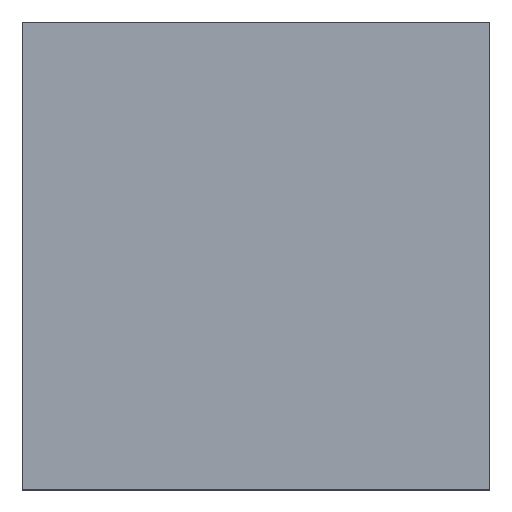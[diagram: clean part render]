
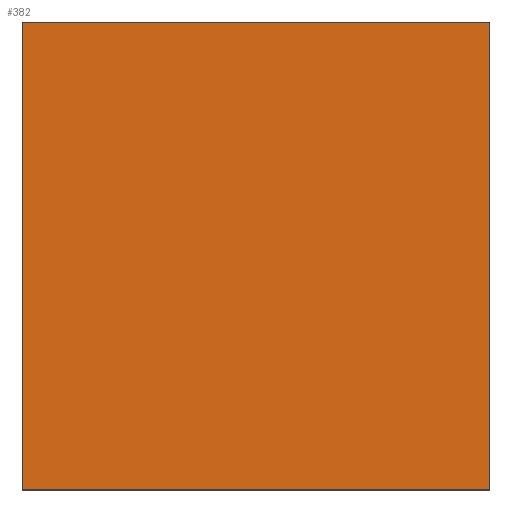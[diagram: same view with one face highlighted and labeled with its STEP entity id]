
A CAD part, top view. The second image highlights one B-rep face of the part: STEP entity #382.
In plain terms, the highlighted planar face has unit normal (0, 0, 1).
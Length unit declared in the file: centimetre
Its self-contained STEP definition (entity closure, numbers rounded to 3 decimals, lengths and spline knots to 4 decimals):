
#7 = ORIENTED_EDGE ( 'NONE', *, *, #65, .T. ) ;
#19 = DIRECTION ( 'NONE',  ( 1., 0., 0. ) ) ;
#27 = AXIS2_PLACEMENT_3D ( 'NONE', #230, #345, #19 ) ;
#38 = LINE ( 'NONE', #271, #120 ) ;
#65 = EDGE_CURVE ( 'NONE', #178, #325, #135, .T. ) ;
#78 = VECTOR ( 'NONE', #321, 100. ) ;
#120 = VECTOR ( 'NONE', #406, 100. ) ;
#135 = LINE ( 'NONE', #324, #78 ) ;
#147 = CARTESIAN_POINT ( 'NONE',  ( 0., 1000., 1000. ) ) ;
#149 = DIRECTION ( 'NONE',  ( 0., 1., 0. ) ) ;
#150 = DIRECTION ( 'NONE',  ( -1., 0., 0. ) ) ;
#168 = EDGE_CURVE ( 'NONE', #354, #178, #304, .T. ) ;
#178 = VERTEX_POINT ( 'NONE', #436 ) ;
#185 = CARTESIAN_POINT ( 'NONE',  ( 1000., 1000., 1000. ) ) ;
#190 = PLANE ( 'NONE',  #27 ) ;
#199 = FACE_OUTER_BOUND ( 'NONE', #219, .T. ) ;
#213 = ORIENTED_EDGE ( 'NONE', *, *, #341, .T. ) ;
#219 = EDGE_LOOP ( 'NONE', ( #7, #213, #356, #431 ) ) ;
#220 = VECTOR ( 'NONE', #150, 100. ) ;
#230 = CARTESIAN_POINT ( 'NONE',  ( 0., 0., 1000. ) ) ;
#263 = CARTESIAN_POINT ( 'NONE',  ( 0., 0., 1000. ) ) ;
#271 = CARTESIAN_POINT ( 'NONE',  ( 0., 0., 1000. ) ) ;
#304 = LINE ( 'NONE', #147, #220 ) ;
#307 = LINE ( 'NONE', #185, #320 ) ;
#320 = VECTOR ( 'NONE', #149, 100. ) ;
#321 = DIRECTION ( 'NONE',  ( 0., -1., 0. ) ) ;
#324 = CARTESIAN_POINT ( 'NONE',  ( 0., 1000., 1000. ) ) ;
#325 = VERTEX_POINT ( 'NONE', #263 ) ;
#341 = EDGE_CURVE ( 'NONE', #325, #387, #38, .T. ) ;
#345 = DIRECTION ( 'NONE',  ( 0., 0., 1. ) ) ;
#354 = VERTEX_POINT ( 'NONE', #412 ) ;
#356 = ORIENTED_EDGE ( 'NONE', *, *, #409, .T. ) ;
#366 = CARTESIAN_POINT ( 'NONE',  ( 1000., 0., 1000. ) ) ;
#382 = ADVANCED_FACE ( 'NONE', ( #199 ), #190, .T. ) ;
#387 = VERTEX_POINT ( 'NONE', #366 ) ;
#406 = DIRECTION ( 'NONE',  ( 1., 0., 0. ) ) ;
#409 = EDGE_CURVE ( 'NONE', #387, #354, #307, .T. ) ;
#412 = CARTESIAN_POINT ( 'NONE',  ( 1000., 1000., 1000. ) ) ;
#431 = ORIENTED_EDGE ( 'NONE', *, *, #168, .T. ) ;
#436 = CARTESIAN_POINT ( 'NONE',  ( 0., 1000., 1000. ) ) ;
